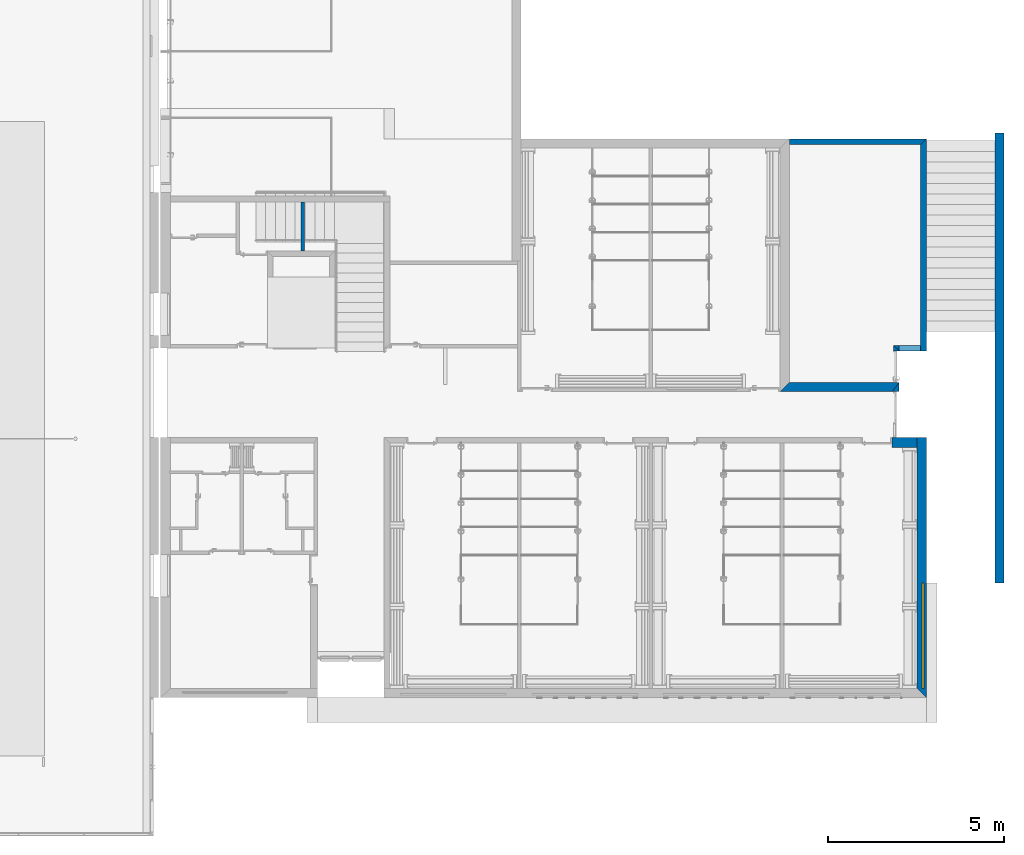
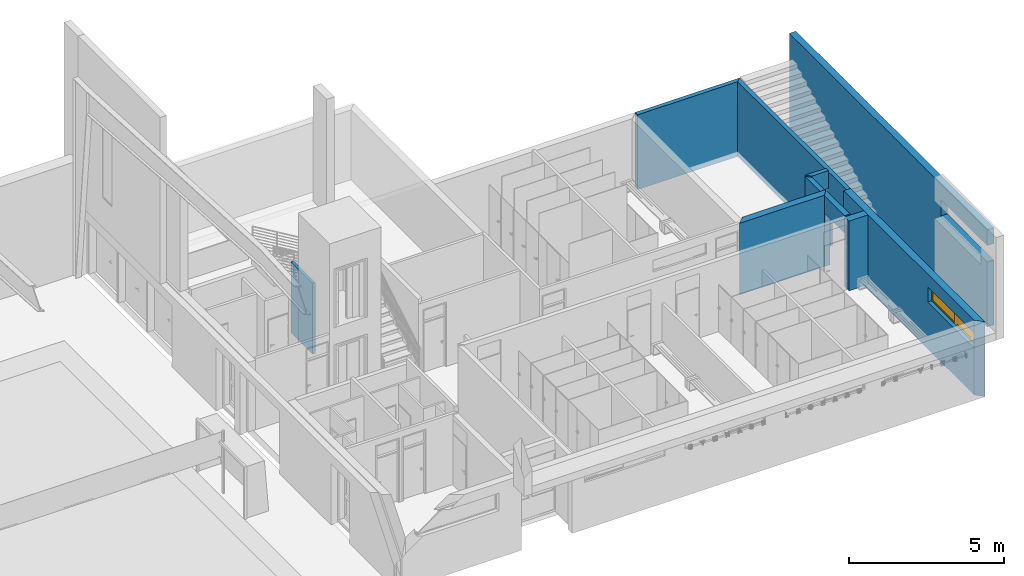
# One storey, part 30 of 45: 10 walls, 1 window, 8 openings.
"""IFC2X3 building model written with IfcOpenShell, lengths in metres."""

import ifcopenshell
import ifcopenshell.guid

model = None  # the IFC model being written
_history = None  # IfcOwnerHistory: only IFC2X3 demands one
_inside = {}  # id of a spatial element -> (the spatial element, [elements in it])
_under = {}  # id of a project, library or spatial element -> (it, [spatial elements below it])
_declared = {}  # id of a project -> (the project, [libraries it declares])
_typed = {}  # id of a type object -> (the type object, [elements of that type])
_made_of = {}  # id of a material, layer set ... -> (it, [elements and type objects made of it])


def new_model(schema):
    """Start an empty IFC model of exactly this schema.

    Asked for "IFC4X3", IfcOpenShell would pick the latest addendum, in which some entities
    have other attributes; the version numbers below select the first issue.
    IFC2X3 requires an IfcOwnerHistory on every rooted entity: one is made here for all.
    """
    global model, _history
    if schema == "IFC4X3":
        model = ifcopenshell.file(schema_version=(4, 3, 0, 0))
    else:
        model = ifcopenshell.file(schema=schema)
    _inside.clear()
    _under.clear()
    _declared.clear()
    _typed.clear()
    _made_of.clear()
    _history = None
    if model.schema == "IFC2X3":
        org = make("IfcOrganization", Name="unknown")
        user = make(
            "IfcPersonAndOrganization",
            ThePerson=make("IfcPerson", FamilyName="unknown"),
            TheOrganization=org,
        )
        app = make(
            "IfcApplication",
            ApplicationDeveloper=org,
            Version="unknown",
            ApplicationFullName="unknown",
            ApplicationIdentifier="unknown",
        )
        _history = make(
            "IfcOwnerHistory",
            OwningUser=user,
            OwningApplication=app,
            ChangeAction="ADDED",
            CreationDate=0,
        )
    return model


def make(cls, **values):
    """One entity of the class cls with the attributes given. An attribute that is None is left unset."""
    return model.create_entity(
        cls, **{name: value for name, value in values.items() if value is not None}
    )


def entity(cls, *values):
    """Any entity or typed value of the class cls, its attributes in the order of the schema. None: left unset."""
    e = model.create_entity(cls)
    for i, value in enumerate(values):
        if value is not None:
            e[i] = value
    return e


def rooted(cls, **values):
    """An entity with a GlobalId (a new one), such as an element, a storey or a relation."""
    return make(cls, GlobalId=ifcopenshell.guid.new(), OwnerHistory=_history, **values)


def si_unit(unit_type, name, prefix=None):
    """IfcSIUnit, for example si_unit("LENGTHUNIT", "METRE", prefix="MILLI")."""
    return make("IfcSIUnit", UnitType=unit_type, Prefix=prefix, Name=name)


def converted_unit(unit_type, name, factor, base, dimensions=None, offset=None):
    """IfcConversionBasedUnit, such as the inch: factor (a typed value) times the base unit."""
    return make(
        "IfcConversionBasedUnit"
        if offset is None
        else "IfcConversionBasedUnitWithOffset",
        ConversionOffset=offset,
        Dimensions=None
        if dimensions is None
        else entity("IfcDimensionalExponents", *dimensions),
        UnitType=unit_type,
        Name=name,
        ConversionFactor=make(
            "IfcMeasureWithUnit", ValueComponent=factor, UnitComponent=base
        ),
    )


def money_unit(currency):
    """IfcMonetaryUnit."""
    return make("IfcMonetaryUnit", Currency=currency)


def assignment(units):
    """IfcUnitAssignment: the units of a project."""
    return None if units is None else make("IfcUnitAssignment", Units=units)


def point(xyz):
    """IfcCartesianPoint."""
    return None if xyz is None else make("IfcCartesianPoint", Coordinates=xyz)


def direction(xyz):
    """IfcDirection."""
    return None if xyz is None else make("IfcDirection", DirectionRatios=xyz)


def frame(location, z_axis=None, x_axis=None):
    """IfcAxis2Placement3D, a coordinate frame: its origin and axes. An axis left out is left unset."""
    return make(
        "IfcAxis2Placement3D",
        Location=point(location),
        Axis=direction(z_axis),
        RefDirection=direction(x_axis),
    )


def origin_with_axes():
    """The frame at (0, 0, 0) with the z axis (0, 0, 1) and the x axis (1, 0, 0) written out."""
    return frame((0.0, 0.0, 0.0), z_axis=(0.0, 0.0, 1.0), x_axis=(1.0, 0.0, 0.0))


def place(relative_to, where):
    """IfcLocalPlacement: puts the frame where relative to a parent placement (None: the world)."""
    return make(
        "IfcLocalPlacement", PlacementRelTo=relative_to, RelativePlacement=where
    )


def context(
    kind, dimensions, precision=None, world=None, true_north=None, identifier=None
):
    """IfcGeometricRepresentationContext, for example the 3D "Model" context."""
    return make(
        "IfcGeometricRepresentationContext",
        ContextIdentifier=identifier,
        ContextType=kind,
        CoordinateSpaceDimension=dimensions,
        Precision=precision,
        WorldCoordinateSystem=world,
        TrueNorth=true_north,
    )


def subcontext(parent, identifier, kind, view, scale=None):
    """IfcGeometricRepresentationSubContext, for example "Body" below "Model"."""
    return make(
        "IfcGeometricRepresentationSubContext",
        ContextIdentifier=identifier,
        ContextType=kind,
        ParentContext=parent,
        TargetScale=scale,
        TargetView=view,
    )


def project(units=None, contexts=None):
    """IfcProject with its units and contexts."""
    return rooted(
        "IfcProject",
        Name="project",
        RepresentationContexts=contexts,
        UnitsInContext=assignment(units),
    )


def spatial(cls, under=None, at=None, **own):
    """A site, building, storey or space (cls), placed at a placement, below another one or the project."""
    s = rooted(cls, ObjectPlacement=at, **own)
    if under is not None:
        _under.setdefault(under.id(), (under, []))[1].append(s)
    return s


def polyline(points):
    """IfcPolyline through the points."""
    return make("IfcPolyline", Points=[point(p) for p in points])


def outline(outer, holes=None, kind="AREA"):
    """IfcArbitraryClosedProfileDef: a profile drawn as a closed curve; with holes, ...WithVoids."""
    if holes is None:
        return make("IfcArbitraryClosedProfileDef", ProfileType=kind, OuterCurve=outer)
    return make(
        "IfcArbitraryProfileDefWithVoids",
        ProfileType=kind,
        OuterCurve=outer,
        InnerCurves=holes,
    )


def extrude(swept, where, along, depth):
    """IfcExtrudedAreaSolid: the profile swept, set in the frame where, extruded along a direction by depth."""
    return make(
        "IfcExtrudedAreaSolid",
        SweptArea=swept,
        Position=where,
        ExtrudedDirection=direction(along),
        Depth=depth,
    )


def boolean(op, a, b):
    """IfcBooleanResult of two solids."""
    return make("IfcBooleanResult", Operator=op, FirstOperand=a, SecondOperand=b)


def faces_of(points, faces, orient=None, outer=None):
    """IfcFace entities. A face is a list of loops; a loop is a list of indices into points, from 0.

    orient and outer hold one flag for each loop. By default every Orientation is true, the
    first loop of a face is its IfcFaceOuterBound and the others are IfcFaceBound.
    """
    made = []
    for i, loops in enumerate(faces):
        bounds = []
        for j, loop in enumerate(loops):
            is_outer = j == 0 if outer is None else outer[i][j]
            bounds.append(
                make(
                    "IfcFaceOuterBound" if is_outer else "IfcFaceBound",
                    Bound=make("IfcPolyLoop", Polygon=[points[k] for k in loop]),
                    Orientation=True if orient is None else orient[i][j],
                )
            )
        made.append(make("IfcFace", Bounds=bounds))
    return made


def open_shell(faces, orient=None, outer=None):
    """The faces of one IfcOpenShell. surface_model builds it on its shared points."""
    return ("IfcOpenShell", faces, orient, outer)


def faceted_brep(points, faces, orient=None, outer=None, voids=None):
    """IfcFacetedBrep: a solid bounded by flat faces; with voids (closed shells), ...WithVoids."""
    shared = [point(p) for p in points]
    hull = make("IfcClosedShell", CfsFaces=faces_of(shared, faces, orient, outer))
    if voids is None:
        return make("IfcFacetedBrep", Outer=hull)
    return make(
        "IfcFacetedBrepWithVoids",
        Outer=hull,
        Voids=[
            make(cls, CfsFaces=faces_of(shared, fs, o, b)) for cls, fs, o, b in voids
        ],
    )


def surface_model(cls, points, shells):
    """IfcFaceBasedSurfaceModel or IfcShellBasedSurfaceModel (cls): surfaces that need not close."""
    shared = [point(p) for p in points]
    made = [make(c, CfsFaces=faces_of(shared, fs, o, b)) for c, fs, o, b in shells]
    if cls == "IfcFaceBasedSurfaceModel":
        return make(cls, FbsmFaces=made)
    return make(cls, SbsmBoundary=made)


def shape(context_of_items, identifier, shape_type, items):
    """IfcShapeRepresentation: the items that make up one representation, for example the "Body"."""
    return make(
        "IfcShapeRepresentation",
        ContextOfItems=context_of_items,
        RepresentationIdentifier=identifier,
        RepresentationType=shape_type,
        Items=items,
    )


def source(mapping_origin, context_of_items, identifier, shape_type, items):
    """IfcRepresentationMap: a shape defined once, which mapped items show again and again."""
    return make(
        "IfcRepresentationMap",
        MappingOrigin=mapping_origin,
        MappedRepresentation=shape(context_of_items, identifier, shape_type, items),
    )


def transform(
    local_origin,
    x_axis=None,
    y_axis=None,
    z_axis=None,
    scale=None,
    scale2=None,
    scale3=None,
    uniform=True,
):
    """IfcCartesianTransformationOperator3D, or its non-uniform kind. x_axis, y_axis, z_axis: its Axis1, 2, 3."""
    if uniform:
        return make(
            "IfcCartesianTransformationOperator3D",
            Axis1=direction(x_axis),
            Axis2=direction(y_axis),
            LocalOrigin=point(local_origin),
            Scale=scale,
            Axis3=direction(z_axis),
        )
    return make(
        "IfcCartesianTransformationOperator3DnonUniform",
        Axis1=direction(x_axis),
        Axis2=direction(y_axis),
        LocalOrigin=point(local_origin),
        Scale=scale,
        Axis3=direction(z_axis),
        Scale2=scale2,
        Scale3=scale3,
    )


def mapped(mapping_source, mapping_target):
    """IfcMappedItem: shows the shape of a source again, moved by a transform."""
    return make(
        "IfcMappedItem", MappingSource=mapping_source, MappingTarget=mapping_target
    )


def material(Name=None, Category=None):
    """IfcMaterial."""
    return make("IfcMaterial", Name=Name, Category=Category)


def layer(
    of_material, thickness, ventilated=None, Name=None, Category=None, Priority=None
):
    """IfcMaterialLayer: one layer of a wall or slab, of a material (None: an air gap)."""
    return make(
        "IfcMaterialLayer",
        Material=of_material,
        LayerThickness=thickness,
        IsVentilated=ventilated,
        Name=Name,
        Category=Category,
        Priority=Priority,
    )


def layer_set(layers, Name=None):
    """IfcMaterialLayerSet."""
    return make("IfcMaterialLayerSet", MaterialLayers=layers, LayerSetName=Name)


def layer_usage(for_layer_set, set_direction, sense, offset, extent=None):
    """IfcMaterialLayerSetUsage: how a layer set lies in its element."""
    return make(
        "IfcMaterialLayerSetUsage",
        ForLayerSet=for_layer_set,
        LayerSetDirection=set_direction,
        DirectionSense=sense,
        OffsetFromReferenceLine=offset,
        ReferenceExtent=extent,
    )


def made_of(thing, what):
    """Note that an element or type object is made of a material, layer set ...; save() writes the relation."""
    if what is not None:
        _made_of.setdefault(what.id(), (what, []))[1].append(thing)
    return thing


def type_object(cls, material=None, **own):
    """A type object (cls), such as IfcWallType, which elements share."""
    return made_of(rooted(cls, **own), material)


def element(
    cls,
    number,
    at=None,
    inside=None,
    cuts=None,
    type_object=None,
    material=None,
    context=None,
    identifier="Body",
    shape_type=None,
    held_by="IfcProductDefinitionShape",
    body=None,
    shapes=None,
    **own,
):
    """One element of the class cls, such as IfcWall. Its Tag is "e" and its number.

    at: its placement. inside: the storey or other place that contains it. cuts: it is an
    opening in that element (IfcRelVoidsElement). A single representation is given by context,
    identifier, shape_type and body (its items); several are given by shapes. held_by: the class
    of the entity that holds the representations. save() writes the other relations.
    """
    e = rooted(cls, Tag="e%d" % number, ObjectPlacement=at, **own)
    if body is not None:
        shapes = [shape(context, identifier, shape_type, body)]
    if shapes is not None:
        e.Representation = make(held_by, Representations=shapes)
    if inside is not None:
        _inside.setdefault(inside.id(), (inside, []))[1].append(e)
    if cuts is not None:
        rooted(
            "IfcRelVoidsElement", RelatingBuildingElement=cuts, RelatedOpeningElement=e
        )
    if type_object is not None:
        _typed.setdefault(type_object.id(), (type_object, []))[1].append(e)
    return made_of(e, material)


def fill(opening, filler):
    """IfcRelFillsElement: the door or window that sits in an opening."""
    return rooted(
        "IfcRelFillsElement",
        RelatingOpeningElement=opening,
        RelatedBuildingElement=filler,
    )


def aggregate(whole, parts):
    """IfcRelAggregates: a whole, such as a stair, and the parts it consists of."""
    return rooted("IfcRelAggregates", RelatingObject=whole, RelatedObjects=parts)


def save(model, path):
    """Write the relations noted so far, then the file.

    IfcRelAggregates (storeys below a building ...), IfcRelContainedInSpatialStructure (elements
    in a storey), IfcRelDefinesByType, IfcRelAssociatesMaterial and IfcRelDeclares: one each for
    every whole, place, type object, material and project.
    """
    for whole, parts in _under.values():
        aggregate(whole, parts)
    for where, things in _inside.values():
        rooted(
            "IfcRelContainedInSpatialStructure",
            RelatedElements=things,
            RelatingStructure=where,
        )
    for kind, things in _typed.values():
        rooted("IfcRelDefinesByType", RelatedObjects=things, RelatingType=kind)
    for what, things in _made_of.values():
        rooted("IfcRelAssociatesMaterial", RelatedObjects=things, RelatingMaterial=what)
    for by, libraries in _declared.values():
        rooted("IfcRelDeclares", RelatingContext=by, RelatedDefinitions=libraries)
    model.write(path)


model = new_model("IFC2X3")

# Units and contexts
model_context = context("Model", 3, precision=1e-05, world=origin_with_axes(), true_north=direction((0.0, 1.0)))
body_context = subcontext(model_context, "Body", "Model", "MODEL_VIEW")
ifc_project = project(units=[si_unit("LENGTHUNIT", "METRE"), si_unit("AREAUNIT", "SQUARE_METRE"), si_unit("VOLUMEUNIT", "CUBIC_METRE"), converted_unit("PLANEANGLEUNIT", "DEGREE", entity("IfcPlaneAngleMeasure", 0.0174532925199), si_unit("PLANEANGLEUNIT", "RADIAN"), dimensions=[0, 0, 0, 0, 0, 0, 0]), si_unit("SOLIDANGLEUNIT", "STERADIAN"), money_unit("EUR"), converted_unit("TIMEUNIT", "Year", entity("IfcTimeMeasure", 31556926.0), si_unit("TIMEUNIT", "SECOND"), dimensions=[0, 0, 0, 0, 0, 0, 0]), si_unit("MASSUNIT", "GRAM"), si_unit("THERMODYNAMICTEMPERATUREUNIT", "DEGREE_CELSIUS"), si_unit("LUMINOUSINTENSITYUNIT", "LUMEN")], contexts=[model_context])

# Site, building, storey
site_placement = place(None, origin_with_axes())
site = spatial("IfcSite", under=ifc_project, at=site_placement, Name="Site", CompositionType="ELEMENT")
building_placement = place(site_placement, origin_with_axes())
building = spatial("IfcBuilding", under=site, at=building_placement, Name="Bâtiment", CompositionType="ELEMENT")
storey_placement = place(building_placement, origin_with_axes())
storey = spatial("IfcBuildingStorey", under=building, at=storey_placement, Name="NIVEAU BAS GYMNASE", CompositionType="ELEMENT", Elevation=0.0)

# Walls
ifc_material_1 = material(Name="Hachure solide* 3962059836")
ifc_layer_1 = layer(ifc_material_1, 0.1, ventilated="UNKNOWN")
ifc_layer_set_1 = layer_set([ifc_layer_1], Name="Hachure solide* 3962059836 0.1")
ifc_layer_usage_1 = layer_usage(ifc_layer_set_1, "AXIS2", "POSITIVE", 0.0)
wall_type_1 = type_object("IfcWallType", Name="Hachure solide* 3962059836 100", PredefinedType="NOTDEFINED")
wall_1_placement = place(storey_placement, frame((49.578457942, 18.568815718, 0.0), z_axis=(0.0, 0.0, 1.0), x_axis=(0.0, 1.0, 0.0)))
element("IfcWallStandardCase", 1, at=wall_1_placement, inside=storey, type_object=wall_type_1, material=ifc_layer_usage_1, Name="Mur-004", context=body_context, shape_type="CSG", body=[
    boolean("DIFFERENCE", boolean("DIFFERENCE", extrude(outline(polyline([(-0.16, 0.0), (1.56, 0.0), (1.56, 0.1), (-0.16, 0.1), (-0.16, 0.0)])), origin_with_axes(), (0.0, 0.0, 1.0), 2.8), faceted_brep([(0.0, 0.0, 0.0), (0.0, 0.0, 2.8), (-0.16, 0.0, 2.8), (-0.16, 0.0, 0.0), (0.0, 0.1, 2.8), (0.0, 0.1, 0.0), (-0.16, 0.1, 2.8), (-0.16, 0.1, 0.0)], [[[0, 1, 2, 3]], [[4, 1, 0, 5]], [[1, 4, 6, 2]], [[6, 7, 3, 2]], [[5, 0, 3, 7]], [[4, 5, 7, 6]]])), faceted_brep([(1.4, 0.1, 2.8), (1.4, 0.0, 2.8), (1.56, 0.0, 2.8), (1.56, 0.1, 2.8), (1.4, 0.0, 0.0), (1.4, 0.1, 0.0), (1.56, 0.0, 0.0), (1.56, 0.1, 0.0)], [[[0, 1, 2, 3]], [[4, 1, 0, 5]], [[1, 4, 6, 2]], [[2, 6, 7, 3]], [[5, 0, 3, 7]], [[4, 5, 7, 6]]])),
])
ifc_material_2 = material(Name="Hachure solide* 3992800808")
ifc_layer_2 = layer(ifc_material_2, 0.02, ventilated="UNKNOWN")
ifc_material_3 = material(Name="Empty Fill 290923149")
ifc_layer_3 = layer(ifc_material_3, 0.08, ventilated="UNKNOWN")
ifc_material_4 = material(Name="Hachure solide* 2593434267")
ifc_layer_4 = layer(ifc_material_4, 0.16, ventilated="UNKNOWN")
ifc_layer_set_2 = layer_set([ifc_layer_2, ifc_layer_3, ifc_layer_4], Name="•GYMN 16+10")
ifc_layer_usage_2 = layer_usage(ifc_layer_set_2, "AXIS2", "POSITIVE", -0.26)
wall_type_2 = type_object("IfcWallType", Name="•GYMN 16+10 260", PredefinedType="NOTDEFINED")
wall_2_placement = place(storey_placement, frame((66.4830112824, 14.568815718, 0.0), z_axis=(0.0, 0.0, 1.0), x_axis=(-1.0, 0.0, 0.0)))
element("IfcWallStandardCase", 2, at=wall_2_placement, inside=storey, type_object=wall_type_2, material=ifc_layer_usage_2, Name="Mur-004", context=body_context, shape_type="SweptSolid", body=[
    extrude(outline(polyline([(0.0, -0.26), (3.1195533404, -0.26), (3.3795533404, 0.0), (0.2, 0.0), (0.0, -0.26)])), origin_with_axes(), (0.0, 0.0, 1.0), 2.82),
])

# Wall, openings, window
ifc_layer_5 = layer(ifc_material_4, 0.16, ventilated="UNKNOWN")
ifc_layer_6 = layer(ifc_material_3, 0.08, ventilated="UNKNOWN")
ifc_layer_7 = layer(ifc_material_2, 0.02, ventilated="UNKNOWN")
ifc_layer_set_3 = layer_set([ifc_layer_5, ifc_layer_6, ifc_layer_7], Name="•GYMN 16+10 (1)")
ifc_layer_usage_3 = layer_usage(ifc_layer_set_3, "AXIS2", "POSITIVE", 0.0)
wall_3_placement = place(storey_placement, frame((67.258457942, 5.86881571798, -0.2), z_axis=(0.0, 0.0, 1.0), x_axis=(0.0, 1.0, 0.0)))
wall_3 = element("IfcWallStandardCase", 3, at=wall_3_placement, inside=storey, type_object=wall_type_2, material=ifc_layer_usage_3, Name="Mur-022", context=body_context, shape_type="SweptSolid", body=[
    extrude(outline(polyline([(0.0, 0.0), (8.7, 0.0), (8.7, 0.26), (0.26, 0.26), (0.0, 0.0)])), origin_with_axes(), (0.0, 0.0, 1.0), 2.95),
])
opening_1_placement = place(wall_3_placement, frame((1.76, 0.0, 1.85), z_axis=(0.0, 0.0, 1.0), x_axis=(1.0, 0.0, 0.0)))
opening_1 = element("IfcOpeningElement", 4, at=opening_1_placement, cuts=wall_3, Name="Fen-028", context=body_context, shape_type="SweptSolid", body=[
    extrude(outline(polyline([(-1.5, 0.0), (-1.5, -0.6), (1.5, -0.6), (1.5, 0.0), (-1.5, 0.0)])), frame((0.0, 0.12, 0.0), z_axis=(0.0, 1.0, 0.0), x_axis=(1.0, 0.0, 0.0)), (0.0, 0.0, 1.0), 0.4),
    extrude(outline(polyline([(-1.5, 0.6), (-1.5, 0.0), (1.5, 0.0), (1.5, 0.6), (-1.5, 0.6)])), frame((0.0, 0.12, 0.0), z_axis=(0.0, -1.0, 0.0), x_axis=(1.0, 0.0, 0.0)), (0.0, 0.0, 1.0), 0.38),
])
opening_2_placement = place(wall_3_placement, frame((8.05, 0.0, 0.0), z_axis=(0.0, 0.0, 1.0), x_axis=(1.0, 0.0, 0.0)))
element("IfcOpeningElement", 5, at=opening_2_placement, cuts=wall_3, Name="Por-001", context=body_context, shape_type="SweptSolid", body=[
    extrude(outline(polyline([(-0.65, 2.1), (-0.65, 0.0), (0.65, 0.0), (0.65, 2.1), (-0.65, 2.1)])), frame((0.0, 0.0, 0.0), z_axis=(0.0, -1.0, 0.0), x_axis=(1.0, 0.0, 0.0)), (0.0, 0.0, 1.0), 0.26),
    extrude(outline(polyline([(-0.65, 0.0), (-0.65, -2.1), (0.65, -2.1), (0.65, 0.0), (-0.65, 0.0)])), frame((0.0, 0.0, 0.0), z_axis=(0.0, 1.0, 0.0), x_axis=(1.0, 0.0, 0.0)), (0.0, 0.0, 1.0), 0.26),
])
ifc_material_5 = material(Name="Sans Trame")
window_style = type_object("IfcWindowStyle", Name="Fen double hor coul 10", ConstructionType="NOTDEFINED", OperationType="DOUBLE_PANEL_VERTICAL", ParameterTakesPrecedence=False, Sizeable=False)
shared_shape = source(origin_with_axes(), body_context, "Body", "SurfaceModel", [
    faceted_brep([(-1.46, -0.14, 0.04), (-1.46, -0.14, 0.56), (-1.46, -0.19, 0.56), (-1.46, -0.19, 0.04), (-1.5, -0.14, 0.04), (-1.5, -0.14, 0.56), (-1.5, -0.19, 0.56), (-1.5, -0.19, 0.04)], [[[0, 1, 2, 3]], [[0, 4, 5, 1]], [[1, 5, 6, 2]], [[3, 2, 6, 7]], [[4, 0, 3, 7]], [[5, 4, 7, 6]]]),
    faceted_brep([(1.5, -0.14, 0.04), (1.5, -0.14, 0.56), (1.5, -0.19, 0.56), (1.5, -0.19, 0.04), (1.46, -0.14, 0.04), (1.46, -0.14, 0.56), (1.46, -0.19, 0.56), (1.46, -0.19, 0.04)], [[[0, 1, 2, 3]], [[0, 4, 5, 1]], [[1, 5, 6, 2]], [[3, 2, 6, 7]], [[4, 0, 3, 7]], [[5, 4, 7, 6]]]),
    faceted_brep([(-1.5, -0.14, 0.0), (1.5, -0.14, 0.0), (1.5, -0.19, 0.0), (-1.5, -0.19, 0.0), (-1.5, -0.14, 0.04), (-1.46, -0.14, 0.04), (1.46, -0.14, 0.04), (1.5, -0.14, 0.04), (1.5, -0.19, 0.04), (1.46, -0.19, 0.04), (-1.46, -0.19, 0.04), (-1.5, -0.19, 0.04)], [[[0, 1, 2, 3]], [[0, 4, 5, 6, 7, 1]], [[1, 7, 8, 2]], [[3, 2, 8, 9, 10, 11]], [[4, 0, 3, 11]], [[5, 4, 11, 10]], [[6, 5, 10, 9]], [[7, 6, 9, 8]]]),
    faceted_brep([(-1.5, -0.14, 0.56), (-1.46, -0.14, 0.56), (-1.46, -0.19, 0.56), (-1.5, -0.19, 0.56), (-1.5, -0.14, 0.6), (1.5, -0.14, 0.6), (1.5, -0.14, 0.56), (1.46, -0.14, 0.56), (1.46, -0.19, 0.56), (1.5, -0.19, 0.56), (1.5, -0.19, 0.6), (-1.5, -0.19, 0.6)], [[[0, 1, 2, 3]], [[0, 4, 5, 6, 7, 1]], [[1, 7, 8, 2]], [[3, 2, 8, 9, 10, 11]], [[4, 0, 3, 11]], [[5, 4, 11, 10]], [[6, 5, 10, 9]], [[7, 6, 9, 8]]]),
    faceted_brep([(-1.42, -0.14, 0.08), (-1.42, -0.14, 0.52), (-1.42, -0.165, 0.52), (-1.42, -0.165, 0.08), (-1.46, -0.14, 0.08), (-1.46, -0.14, 0.52), (-1.46, -0.165, 0.52), (-1.46, -0.165, 0.08)], [[[0, 1, 2, 3]], [[0, 4, 5, 1]], [[1, 5, 6, 2]], [[3, 2, 6, 7]], [[4, 0, 3, 7]], [[5, 4, 7, 6]]]),
    faceted_brep([(0.02, -0.14, 0.08), (0.02, -0.14, 0.52), (0.02, -0.165, 0.52), (0.02, -0.165, 0.08), (-0.02, -0.14, 0.08), (-0.02, -0.14, 0.52), (-0.02, -0.165, 0.52), (-0.02, -0.165, 0.08)], [[[0, 1, 2, 3]], [[0, 4, 5, 1]], [[1, 5, 6, 2]], [[3, 2, 6, 7]], [[4, 0, 3, 7]], [[5, 4, 7, 6]]]),
    faceted_brep([(0.02, -0.14, 0.04), (0.02, -0.14, 0.08), (0.02, -0.165, 0.08), (0.02, -0.165, 0.04), (-1.46, -0.14, 0.04), (-1.46, -0.14, 0.08), (-1.42, -0.14, 0.08), (-0.02, -0.14, 0.08), (-0.02, -0.165, 0.08), (-1.42, -0.165, 0.08), (-1.46, -0.165, 0.08), (-1.46, -0.165, 0.04)], [[[0, 1, 2, 3]], [[0, 4, 5, 6, 7, 1]], [[1, 7, 8, 2]], [[3, 2, 8, 9, 10, 11]], [[4, 0, 3, 11]], [[5, 4, 11, 10]], [[6, 5, 10, 9]], [[7, 6, 9, 8]]]),
    faceted_brep([(-1.46, -0.14, 0.56), (-1.46, -0.14, 0.52), (-1.46, -0.165, 0.52), (-1.46, -0.165, 0.56), (0.02, -0.14, 0.56), (0.02, -0.14, 0.52), (-0.02, -0.14, 0.52), (-1.42, -0.14, 0.52), (-1.42, -0.165, 0.52), (-0.02, -0.165, 0.52), (0.02, -0.165, 0.52), (0.02, -0.165, 0.56)], [[[0, 1, 2, 3]], [[0, 4, 5, 6, 7, 1]], [[1, 7, 8, 2]], [[3, 2, 8, 9, 10, 11]], [[4, 0, 3, 11]], [[5, 4, 11, 10]], [[6, 5, 10, 9]], [[7, 6, 9, 8]]]),
    surface_model("IfcShellBasedSurfaceModel", [(-1.42, -0.1425, 0.08), (-1.42, -0.1425, 0.52), (-0.02, -0.1425, 0.52), (-0.02, -0.1425, 0.08)], [open_shell([[[0, 1, 2, 3]]])]),
    surface_model("IfcShellBasedSurfaceModel", [(-1.42, -0.1625, 0.08), (-0.02, -0.1625, 0.08), (-0.02, -0.1625, 0.52), (-1.42, -0.1625, 0.52)], [open_shell([[[0, 1, 2, 3]]])]),
    faceted_brep([(0.02, -0.165, 0.08), (0.02, -0.165, 0.52), (0.02, -0.19, 0.52), (0.02, -0.19, 0.08), (-0.02, -0.165, 0.08), (-0.02, -0.165, 0.52), (-0.02, -0.19, 0.52), (-0.02, -0.19, 0.08)], [[[0, 1, 2, 3]], [[0, 4, 5, 1]], [[1, 5, 6, 2]], [[3, 2, 6, 7]], [[4, 0, 3, 7]], [[5, 4, 7, 6]]]),
    faceted_brep([(1.46, -0.165, 0.08), (1.46, -0.165, 0.52), (1.46, -0.19, 0.52), (1.46, -0.19, 0.08), (1.42, -0.165, 0.08), (1.42, -0.165, 0.52), (1.42, -0.19, 0.52), (1.42, -0.19, 0.08)], [[[0, 1, 2, 3]], [[0, 4, 5, 1]], [[1, 5, 6, 2]], [[3, 2, 6, 7]], [[4, 0, 3, 7]], [[5, 4, 7, 6]]]),
    faceted_brep([(1.46, -0.165, 0.04), (1.46, -0.165, 0.08), (1.46, -0.19, 0.08), (1.46, -0.19, 0.04), (-0.02, -0.165, 0.04), (-0.02, -0.165, 0.08), (0.02, -0.165, 0.08), (1.42, -0.165, 0.08), (1.42, -0.19, 0.08), (0.02, -0.19, 0.08), (-0.02, -0.19, 0.08), (-0.02, -0.19, 0.04)], [[[0, 1, 2, 3]], [[0, 4, 5, 6, 7, 1]], [[1, 7, 8, 2]], [[3, 2, 8, 9, 10, 11]], [[4, 0, 3, 11]], [[5, 4, 11, 10]], [[6, 5, 10, 9]], [[7, 6, 9, 8]]]),
    faceted_brep([(-0.02, -0.165, 0.56), (-0.02, -0.165, 0.52), (-0.02, -0.19, 0.52), (-0.02, -0.19, 0.56), (1.46, -0.165, 0.56), (1.46, -0.165, 0.52), (1.42, -0.165, 0.52), (0.02, -0.165, 0.52), (0.02, -0.19, 0.52), (1.42, -0.19, 0.52), (1.46, -0.19, 0.52), (1.46, -0.19, 0.56)], [[[0, 1, 2, 3]], [[0, 4, 5, 6, 7, 1]], [[1, 7, 8, 2]], [[3, 2, 8, 9, 10, 11]], [[4, 0, 3, 11]], [[5, 4, 11, 10]], [[6, 5, 10, 9]], [[7, 6, 9, 8]]]),
    surface_model("IfcShellBasedSurfaceModel", [(0.02, -0.1675, 0.08), (0.02, -0.1675, 0.52), (1.42, -0.1675, 0.52), (1.42, -0.1675, 0.08)], [open_shell([[[0, 1, 2, 3]]])]),
    surface_model("IfcShellBasedSurfaceModel", [(0.02, -0.1875, 0.08), (1.42, -0.1875, 0.08), (1.42, -0.1875, 0.52), (0.02, -0.1875, 0.52)], [open_shell([[[0, 1, 2, 3]]])]),
])
window_placement = place(opening_1_placement, frame((-1.5, 0.0, 0.0), z_axis=(0.0, 0.0, 1.0), x_axis=(1.0, 0.0, 0.0)))
window = element("IfcWindow", 6, at=window_placement, inside=storey, type_object=window_style, material=ifc_material_5, Name="Fen-028", OverallHeight=0.6, OverallWidth=3.0, context=body_context, shape_type="MappedRepresentation", body=[
    mapped(shared_shape, transform((1.5, 0.26, 0.0))),
])
fill(opening_1, window)

# Wall
ifc_layer_8 = layer(ifc_material_1, 0.16, ventilated="UNKNOWN")
ifc_layer_set_4 = layer_set([ifc_layer_8], Name="Hachure solide* 3962059836 0.16")
ifc_layer_usage_4 = layer_usage(ifc_layer_set_4, "AXIS2", "POSITIVE", -0.16)
wall_type_3 = type_object("IfcWallType", Name="Hachure solide* 3962059836 160", PredefinedType="NOTDEFINED")
wall_4_placement = place(storey_placement, frame((63.363457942, 21.758815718, -0.2), z_axis=(0.0, 0.0, 1.0), x_axis=(1.0, 0.0, 0.0)))
element("IfcWallStandardCase", 7, at=wall_4_placement, inside=storey, type_object=wall_type_3, material=ifc_layer_usage_4, Name="Mur-004", context=body_context, shape_type="SweptSolid", body=[
    extrude(outline(polyline([(0.0, -0.16), (3.735, -0.16), (3.895, 0.0), (0.0, 0.0), (0.0, -0.16)])), origin_with_axes(), (0.0, 0.0, 1.0), 2.95),
])

# Wall, opening
ifc_layer_9 = layer(ifc_material_4, 0.16, ventilated="UNKNOWN")
ifc_layer_set_5 = layer_set([ifc_layer_9], Name="Hachure solide* 2593434267 0.16")
ifc_layer_usage_5 = layer_usage(ifc_layer_set_5, "AXIS2", "POSITIVE", 0.0)
wall_type_4 = type_object("IfcWallType", Name="Hachure solide* 2593434267 160", PredefinedType="NOTDEFINED")
wall_5_placement = place(storey_placement, frame((67.258457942, 14.568815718, -0.2), z_axis=(0.0, 0.0, 1.0), x_axis=(0.0, 1.0, 0.0)))
wall_5 = element("IfcWallStandardCase", 8, at=wall_5_placement, inside=storey, type_object=wall_type_4, material=ifc_layer_usage_5, Name="Mur-022", context=body_context, shape_type="SweptSolid", body=[
    extrude(outline(polyline([(0.0, 0.0), (7.19, 0.0), (7.03, 0.16), (0.0, 0.16), (0.0, 0.0)])), origin_with_axes(), (0.0, 0.0, 1.0), 2.95),
])
opening_3_placement = place(wall_5_placement, frame((0.56, 0.0, 0.0), z_axis=(0.0, 0.0, 1.0), x_axis=(1.0, 0.0, 0.0)))
element("IfcOpeningElement", 9, at=opening_3_placement, cuts=wall_5, Name="Por-001", context=body_context, shape_type="SweptSolid", body=[
    extrude(outline(polyline([(-0.6, 2.1), (-0.6, 0.0), (0.6, 0.0), (0.6, 2.1), (-0.6, 2.1)])), frame((0.0, 0.0, 0.0), z_axis=(0.0, -1.0, 0.0), x_axis=(1.0, 0.0, 0.0)), (0.0, 0.0, 1.0), 0.16),
    extrude(outline(polyline([(-0.6, 0.0), (-0.6, -2.1), (0.6, -2.1), (0.6, 0.0), (-0.6, 0.0)])), frame((0.0, 0.0, 0.0), z_axis=(0.0, 1.0, 0.0), x_axis=(1.0, 0.0, 0.0)), (0.0, 0.0, 1.0), 0.16),
])

ifc_material_6 = material(Name="Hachure solide* 1842511997")
ifc_layer_10 = layer(ifc_material_6, 0.16, ventilated="UNKNOWN")
ifc_layer_set_6 = layer_set([ifc_layer_10], Name="Hachure solide* 1842511997 0.16")
ifc_layer_usage_6 = layer_usage(ifc_layer_set_6, "AXIS2", "POSITIVE", 0.0)
wall_type_5 = type_object("IfcWallType", Name="Hachure solide* 1842511997 160", PredefinedType="NOTDEFINED")
wall_6_placement = place(storey_placement, frame((66.4830112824, 14.568815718, 0.0), z_axis=(0.0, 0.0, 1.0), x_axis=(0.0, 1.0, 0.0)))
wall_6 = element("IfcWallStandardCase", 10, at=wall_6_placement, inside=storey, type_object=wall_type_5, material=ifc_layer_usage_6, Name="Mur-004", context=body_context, shape_type="SweptSolid", body=[
    extrude(outline(polyline([(0.26, 0.0), (1.16, 0.0), (1.32, 0.16), (0.26, 0.16), (0.26, 0.0)])), origin_with_axes(), (0.0, 0.0, 1.0), 2.75),
])
opening_4_placement = place(wall_6_placement, frame((0.71, 0.0, 0.0), z_axis=(0.0, 0.0, 1.0), x_axis=(1.0, 0.0, 0.0)))
element("IfcOpeningElement", 11, at=opening_4_placement, cuts=wall_6, Name="Por-021", context=body_context, shape_type="SweptSolid", body=[
    extrude(outline(polyline([(-0.45, 2.1), (-0.45, 0.0), (0.45, 0.0), (0.45, 2.1), (-0.45, 2.1)])), frame((0.0, 0.06, 0.0), z_axis=(0.0, -1.0, 0.0), x_axis=(1.0, 0.0, 0.0)), (0.0, 0.0, -1.0), 0.26),
    extrude(outline(polyline([(-0.45, 0.0), (-0.45, -2.1), (0.45, -2.1), (0.45, 0.0), (-0.45, 0.0)])), frame((0.0, 0.06, 0.0), z_axis=(0.0, 1.0, 0.0), x_axis=(1.0, 0.0, 0.0)), (0.0, 0.0, -1.0), 0.22),
])

ifc_layer_usage_7 = layer_usage(ifc_layer_set_6, "AXIS2", "POSITIVE", 0.0)
wall_7_placement = place(storey_placement, frame((66.4830112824, 15.728815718, 0.0), z_axis=(0.0, 0.0, 1.0), x_axis=(1.0, 0.0, 0.0)))
wall_7 = element("IfcWallStandardCase", 12, at=wall_7_placement, inside=storey, type_object=wall_type_5, material=ifc_layer_usage_7, Name="Mur-004", context=body_context, shape_type="SweptSolid", body=[
    extrude(outline(polyline([(0.0, 0.0), (0.6154466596, 0.0), (0.6154466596, 0.16), (-0.16, 0.16), (0.0, 0.0)])), origin_with_axes(), (0.0, 0.0, 1.0), 2.8),
])
opening_5_placement = place(wall_7_placement, frame((0.30772332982, 0.0, 0.0359228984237), z_axis=(0.0, 0.0, 1.0), x_axis=(1.0, 0.0, 0.0)))
element("IfcOpeningElement", 13, at=opening_5_placement, cuts=wall_7, Name="Fen-030", context=body_context, shape_type="SweptSolid", body=[
    extrude(outline(polyline([(0.307723, 2.064078), (-0.307723, 2.064078), (-0.307723, 0.0), (0.307723, 0.0), (0.307723, 2.064078)])), frame((0.0, 0.05, 0.0), z_axis=(0.0, 1.0, 0.0), x_axis=(-1.0, 0.0, 0.0)), (0.0, 0.0, 1.0), 0.27),
    extrude(outline(polyline([(0.307723, 0.0), (-0.307723, 0.0), (-0.307723, -2.064078), (0.307723, -2.064078), (0.307723, 0.0)])), frame((0.0, 0.05, 0.0), z_axis=(0.0, -1.0, 0.0), x_axis=(-1.0, 0.0, 0.0)), (0.0, 0.0, 1.0), 0.21),
])

ifc_layer_11 = layer(ifc_material_1, 0.25, ventilated="UNKNOWN")
ifc_layer_set_7 = layer_set([ifc_layer_11], Name="Hachure solide* 3962059836 0.25")
ifc_layer_usage_8 = layer_usage(ifc_layer_set_7, "AXIS2", "POSITIVE", -0.25)
wall_type_6 = type_object("IfcWallType", Name="Hachure solide* 3962059836 250", PredefinedType="NOTDEFINED")
wall_8_placement = place(storey_placement, frame((69.216758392, 9.12881571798, -0.115362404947), z_axis=(0.0, 0.0, 1.0), x_axis=(0.0, 1.0, 0.0)))
wall_8 = element("IfcWallStandardCase", 14, at=wall_8_placement, inside=storey, type_object=wall_type_6, material=ifc_layer_usage_8, Name="Mur-004", context=body_context, shape_type="SweptSolid", body=[
    extrude(outline(polyline([(0.0, -0.25), (12.8, -0.25), (12.8, 0.0), (0.0, 0.0), (0.0, -0.25)])), origin_with_axes(), (0.0, 0.0, 1.0), 3.83536240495),
])
opening_6_placement = place(wall_8_placement, frame((1.5, 0.0, 2.56536240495), z_axis=(0.0, 0.0, 1.0), x_axis=(1.0, 0.0, 0.0)))
element("IfcOpeningElement", 15, at=opening_6_placement, cuts=wall_8, Name="Fen-001", context=body_context, shape_type="SweptSolid", body=[
    extrude(outline(polyline([(-1.5, 0.65), (-1.5, 0.0), (1.5, 0.0), (1.5, 0.65), (-1.5, 0.65)])), frame((0.0, -0.11, 0.0), z_axis=(0.0, -1.0, 0.0), x_axis=(1.0, 0.0, 0.0)), (0.0, 0.0, 1.0), 0.25),
    extrude(outline(polyline([(-1.5, 0.0), (-1.5, -0.65), (1.5, -0.65), (1.5, 0.0), (-1.5, 0.0)])), frame((0.0, -0.11, 0.0), z_axis=(0.0, 1.0, 0.0), x_axis=(1.0, 0.0, 0.0)), (0.0, 0.0, 1.0), 0.25),
])

# Wall, openings
ifc_layer_12 = layer(ifc_material_2, 0.02, ventilated="UNKNOWN")
ifc_layer_13 = layer(ifc_material_3, 0.08, ventilated="UNKNOWN")
ifc_material_7 = material(Name="Hachure solide* 4022991772")
ifc_layer_14 = layer(ifc_material_7, 0.1, ventilated="UNKNOWN")
ifc_layer_set_8 = layer_set([ifc_layer_12, ifc_layer_13, ifc_layer_14], Name="•GYMN 10+10 0232896968")
ifc_layer_usage_9 = layer_usage(ifc_layer_set_8, "AXIS2", "POSITIVE", -0.2)
wall_type_7 = type_object("IfcWallType", Name="•GYMN 10+10 0232896968 200", PredefinedType="NOTDEFINED")
wall_9_placement = place(storey_placement, frame((66.4830112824, 14.568815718, 0.0), z_axis=(0.0, 0.0, 1.0), x_axis=(0.0, -1.0, 0.0)))
wall_9 = element("IfcWallStandardCase", 16, at=wall_9_placement, inside=storey, type_object=wall_type_7, material=ifc_layer_usage_9, Name="Mur-022", context=body_context, shape_type="SweptSolid", body=[
    extrude(outline(polyline([(0.0, -0.2), (1.3, -0.2), (1.3, 0.0), (-0.26, 0.0), (0.0, -0.2)])), origin_with_axes(), (0.0, 0.0, 1.0), 2.8),
])
opening_7_placement = place(wall_9_placement, frame((1.1, 0.0, 0.0), z_axis=(0.0, 0.0, 1.0), x_axis=(1.0, 0.0, 0.0)))
element("IfcOpeningElement", 17, at=opening_7_placement, cuts=wall_9, Name="Fen-029", context=body_context, shape_type="SweptSolid", body=[
    extrude(outline(polyline([(-0.2, 0.0), (-0.2, -2.1), (0.2, -2.1), (0.2, 0.0), (-0.2, 0.0)])), frame((0.0, -0.08, 0.0), z_axis=(0.0, 1.0, 0.0), x_axis=(1.0, 0.0, 0.0)), (0.0, 0.0, 1.0), 0.2),
    extrude(outline(polyline([(-0.2, 2.1), (-0.2, 0.0), (0.2, 0.0), (0.2, 2.1), (-0.2, 2.1)])), frame((0.0, -0.08, 0.0), z_axis=(0.0, -1.0, 0.0), x_axis=(1.0, 0.0, 0.0)), (0.0, 0.0, 1.0), 0.2),
])
opening_8_placement = place(wall_9_placement, frame((0.45, 0.0, 0.0), z_axis=(0.0, 0.0, 1.0), x_axis=(1.0, 0.0, 0.0)))
element("IfcOpeningElement", 18, at=opening_8_placement, cuts=wall_9, Name="Por-020", context=body_context, shape_type="SweptSolid", body=[
    extrude(outline(polyline([(0.45, 0.0), (-0.45, 0.0), (-0.45, -2.1), (0.45, -2.1), (0.45, 0.0)])), frame((0.0, -0.08, 0.0), z_axis=(0.0, -1.0, 0.0), x_axis=(-1.0, 0.0, 0.0)), (0.0, 0.0, -1.0), 0.2),
    extrude(outline(polyline([(0.45, 2.1), (-0.45, 2.1), (-0.45, 0.0), (0.45, 0.0), (0.45, 2.1)])), frame((0.0, -0.08, 0.0), z_axis=(0.0, 1.0, 0.0), x_axis=(-1.0, 0.0, 0.0)), (0.0, 0.0, -1.0), 0.2),
])

# Wall
ifc_layer_15 = layer(ifc_material_2, 0.02, ventilated="UNKNOWN")
ifc_layer_16 = layer(ifc_material_3, 0.08, ventilated="UNKNOWN")
ifc_layer_17 = layer(ifc_material_4, 0.18, ventilated="UNKNOWN")
ifc_layer_set_9 = layer_set([ifc_layer_15, ifc_layer_16, ifc_layer_17], Name="•GYMN 18+10")
ifc_layer_usage_10 = layer_usage(ifc_layer_set_9, "AXIS2", "POSITIVE", -0.28)
wall_type_8 = type_object("IfcWallType", Name="•GYMN 18+10 280", PredefinedType="NOTDEFINED")
wall_10_placement = place(storey_placement, frame((66.2830112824, 13.268815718, 0.0), z_axis=(0.0, 0.0, 1.0), x_axis=(1.0, 0.0, 0.0)))
element("IfcWallStandardCase", 19, at=wall_10_placement, inside=storey, type_object=wall_type_8, material=ifc_layer_usage_10, Name="Mur-004", context=body_context, shape_type="SweptSolid", body=[
    extrude(outline(polyline([(0.0, -0.28), (0.7154466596, -0.28), (0.7154466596, 0.0), (0.0, 0.0), (0.0, -0.28)])), origin_with_axes(), (0.0, 0.0, 1.0), 2.75),
])

save(model, "model.ifc")
